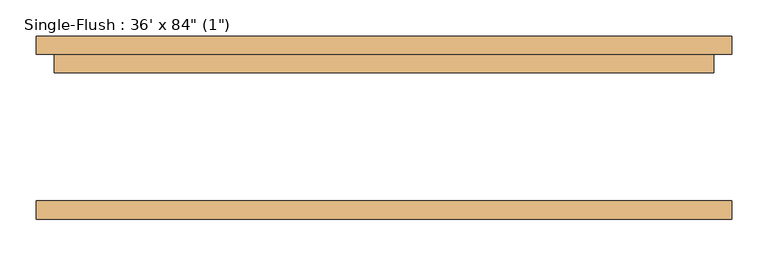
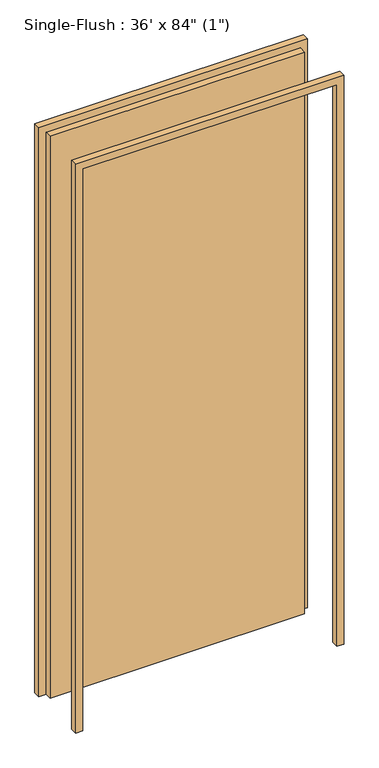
"""IFC4 building model written with IfcOpenShell, lengths in millimetres: door geometry."""

from ifc_helpers import new_model, si_unit, frame, origin, origin_with_axes, place, context, project, spatial, polyline, outline, extrude, source, transform, mapped, element, save


def door_58341a05(model_context):
    return source(origin(), model_context, "Body", "SweptSolid", [
        extrude(outline(polyline([(2159.0, -482.6), (0.0, -482.6), (0.0, -457.2), (2133.6, -457.2), (2133.6, 457.2), (0.0, 457.2), (0.0, 482.6), (2159.0, 482.6), (2159.0, -482.6)])), frame((0.0, 101.6, 0.0), z_axis=(0.0, 1.0, 0.0), x_axis=(0.0, 0.0, 1.0)), (0.0, 0.0, 1.0), 25.4),
        extrude(outline(polyline([(2159.0, 482.6), (2159.0, -482.6), (0.0, -482.6), (0.0, -457.2), (2133.6, -457.2), (2133.6, 457.2), (0.0, 457.2), (0.0, 482.6), (2159.0, 482.6)])), frame((0.0, -127.0, 0.0), z_axis=(0.0, 1.0, 0.0), x_axis=(0.0, 0.0, 1.0)), (0.0, 0.0, 1.0), 25.4),
        extrude(outline(polyline([(457.2, 76.2), (-457.2, 76.2), (-457.2, 101.6), (457.2, 101.6), (457.2, 76.2)])), origin_with_axes(), (0.0, 0.0, 1.0), 2133.6),
    ])


if __name__ == "__main__":
    model = new_model("IFC4")
    model_context = context("Model", 3, world=origin())
    ifc_project = project(units=[si_unit("LENGTHUNIT", "METRE", prefix="MILLI")], contexts=[model_context])
    site = spatial("IfcSite", under=ifc_project)
    building = spatial("IfcBuilding", under=site)
    placement = place(None, origin())
    door_shape = door_58341a05(model_context)
    element("IfcDoor", 1, ObjectType="Single-Flush : 36' x 84\" (1\")", at=placement, inside=building, context=model_context, shape_type="MappedRepresentation", body=[
        mapped(door_shape, transform((0.0, 0.0, 0.0), x_axis=(1.0, 0.0, 0.0), y_axis=(0.0, 1.0, 0.0), z_axis=(0.0, 0.0, 1.0))),
    ])
    save(model, "model.ifc")
